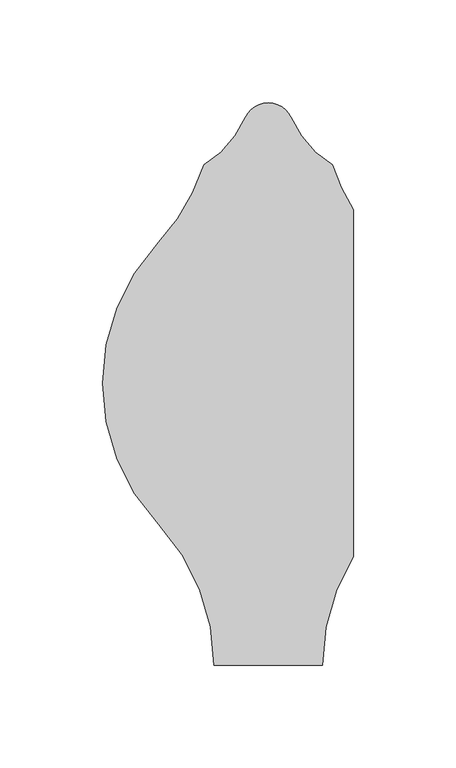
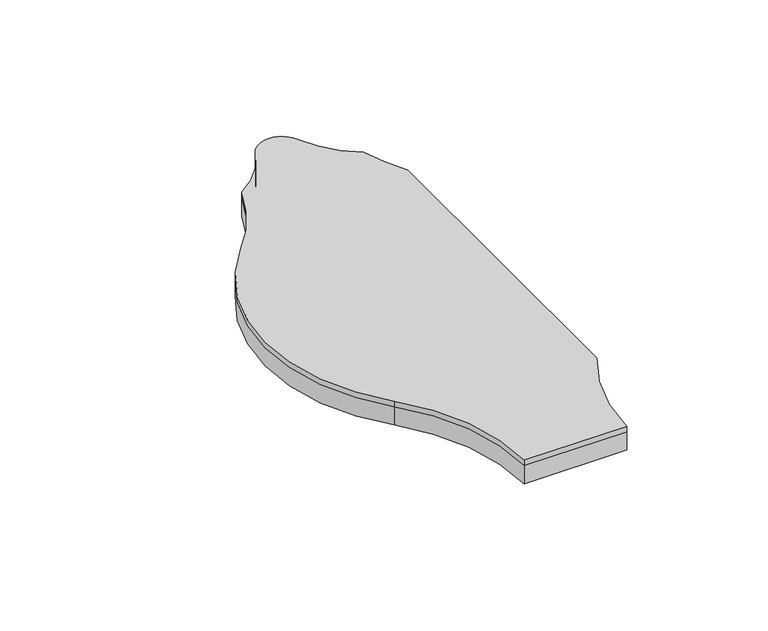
"""IFC4 building model written with IfcOpenShell, lengths in millimetres: proxy geometry, FilzFelt_Fish_Block : Fish Block."""

from ifc_helpers import new_model, si_unit, frame, origin, place, context, project, spatial, polyline, circle_curve, source, transform, mapped, element, save
from ifc_brep_helpers import plane_surface, cylinder_surface, revolved_surface, advanced_brep


def specialty_equipment_7e85a94d(model_context):
    return source(origin(), model_context, "Body", "AdvancedBrep", [
        advanced_brep(
        [(-53.5486457, 68.6120133, 10.0210937), (-31.2619065, 106.3338576, 10.0210937), (-11.0103348, 129.4133496, 10.0210937), (11.0103348, 129.4133496, 10.0210937), (31.2619065, 106.3338576, 10.0210937), (41.4010094, 84.4515082, 10.0210937), (41.4010094, -84.4515082, 10.0210937), (26.3830688, -137.2240266, 10.0210937), (-26.3830688, -137.2240266, 10.0210937), (-53.5486457, -68.6120133, 10.0210937), (-80.7142226, 0.0, 10.0210937), (31.2619065, 106.3338576, 12.9976563), (11.0103348, 129.4133496, 12.9976563), (0.0, 136.5838795, 12.9976563), (-11.0103348, 129.4133496, 12.9976563), (-31.2619065, 106.3338576, 12.9976563), (-53.5486457, 68.6120133, 12.9976563), (-80.7142226, 0.0, 12.9976563), (-53.5486457, -68.6120133, 12.9976563), (-26.3830688, -137.2240266, 12.9976563), (26.3830688, -137.2240266, 12.9976563), (41.4010094, -84.4515082, 12.9976563), (41.4010094, 84.4515082, 12.9976563)],
        [
            (0, 1, circle_curve(frame((-126.6124317, 137.2240266, 10.0210937), z_axis=(0.0, 0.0, 1.0), x_axis=(-1.0, 0.0, 0.0)), 100.2293629)),
            (1, 2, circle_curve(frame((-57.9263497, 150.1559416, 10.0210937), z_axis=(0.0, 0.0, 1.0), x_axis=(-1.0, 0.0, 0.0)), 51.2968574)),
            (2, 3, circle_curve(frame((0.0, 124.5454408, 10.0210937), z_axis=(0.0, 0.0, -1.0), x_axis=(-1.0, 0.0, 0.0)), 12.0384388)),
            (3, 4, circle_curve(frame((57.9263497, 150.1559416, 10.0210937), z_axis=(0.0, 0.0, 1.0), x_axis=(-1.0, 0.0, 0.0)), 51.2968574)),
            (4, 5, circle_curve(frame((126.6124317, 137.2240266, 10.0210937), z_axis=(0.0, 0.0, 1.0), x_axis=(-1.0, 0.0, 0.0)), 100.2293629)),
            (5, 6),
            (6, 7, circle_curve(frame((126.6124317, -137.2240266, 10.0210937), z_axis=(0.0, 0.0, 1.0), x_axis=(-1.0, 0.0, 0.0)), 100.2293629)),
            (7, 8),
            (8, 9, circle_curve(frame((-126.6124317, -137.2240266, 10.0210937), z_axis=(0.0, 0.0, 1.0), x_axis=(-1.0, 0.0, 0.0)), 100.2293629)),
            (9, 10, circle_curve(frame((19.5151403, 0.0, 10.0210937), z_axis=(0.0, 0.0, -1.0), x_axis=(-1.0, 0.0, 0.0)), 100.2293629)),
            (10, 0, circle_curve(frame((19.5151403, 0.0, 10.0210937), z_axis=(0.0, 0.0, -1.0), x_axis=(-1.0, 0.0, 0.0)), 100.2293629)),
            (11, 12, circle_curve(frame((57.9263497, 150.1559416, 12.9976563), z_axis=(0.0, 0.0, -1.0), x_axis=(-1.0, 0.0, 0.0)), 51.2968574)),
            (12, 13, circle_curve(frame((0.0, 124.5454408, 12.9976563), z_axis=(0.0, 0.0, 1.0), x_axis=(-1.0, 0.0, 0.0)), 12.0384388)),
            (13, 14, circle_curve(frame((0.0, 124.5454408, 12.9976563), z_axis=(0.0, 0.0, 1.0), x_axis=(-1.0, 0.0, 0.0)), 12.0384388)),
            (14, 15, circle_curve(frame((-57.9263497, 150.1559416, 12.9976563), z_axis=(0.0, 0.0, -1.0), x_axis=(-1.0, 0.0, 0.0)), 51.2968574)),
            (15, 16, circle_curve(frame((-126.6124317, 137.2240266, 12.9976563), z_axis=(0.0, 0.0, -1.0), x_axis=(-1.0, 0.0, 0.0)), 100.2293629)),
            (16, 17, circle_curve(frame((19.5151403, 0.0, 12.9976563), z_axis=(0.0, 0.0, 1.0), x_axis=(-1.0, 0.0, 0.0)), 100.2293629)),
            (17, 18, circle_curve(frame((19.5151403, 0.0, 12.9976563), z_axis=(0.0, 0.0, 1.0), x_axis=(-1.0, 0.0, 0.0)), 100.2293629)),
            (18, 19, circle_curve(frame((-126.6124317, -137.2240266, 12.9976563), z_axis=(0.0, 0.0, -1.0), x_axis=(-1.0, 0.0, 0.0)), 100.2293629)),
            (19, 20),
            (20, 21, circle_curve(frame((126.6124317, -137.2240266, 12.9976563), z_axis=(0.0, 0.0, -1.0), x_axis=(-1.0, 0.0, 0.0)), 100.2293629)),
            (21, 22),
            (22, 11, circle_curve(frame((126.6124317, 137.2240266, 12.9976563), z_axis=(0.0, 0.0, -1.0), x_axis=(-1.0, 0.0, 0.0)), 100.2293629)),
            (20, 7),
            (6, 21),
            (18, 9),
            (8, 19),
            (16, 0),
            (15, 1),
            (14, 2),
            (12, 3),
            (11, 4),
            (22, 5),
        ],
        [
            plane_surface(frame((0.0, 0.0, 10.0210937), z_axis=(0.0, 0.0, -1.0), x_axis=(0.0, -1.0, 0.0))),
            plane_surface(frame((0.0, 0.0, 12.9976563), z_axis=(0.0, 0.0, 1.0), x_axis=(0.0, -1.0, 0.0))),
            revolved_surface(polyline([(26.383068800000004, -137.2240266, 12.9976563), (26.383068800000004, -137.2240266, 10.0210937)]), (126.6124317, -137.2240266, 10.0210937), (0.0, 0.0, 1.0)),
            revolved_surface(polyline([(-226.84179460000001, -137.2240266, 12.9976563), (-226.84179460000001, -137.2240266, 10.0210937)]), (-126.6124317, -137.2240266, 10.0210937), (0.0, 0.0, 1.0)),
            cylinder_surface(frame((19.5151403, 0.0, 10.0210937), z_axis=(0.0, 0.0, -1.0), x_axis=(-1.0, 0.0, 0.0)), 100.2293629),
            revolved_surface(polyline([(-226.84179460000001, 137.2240266, 12.9976563), (-226.84179460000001, 137.2240266, 10.0210937)]), (-126.6124317, 137.2240266, 10.0210937), (0.0, 0.0, 1.0)),
            revolved_surface(polyline([(-109.2232071, 150.1559416, 12.9976563), (-109.2232071, 150.1559416, 10.0210937)]), (-57.9263497, 150.1559416, 10.0210937), (0.0, 0.0, 1.0)),
            cylinder_surface(frame((0.0, 124.5454408, 10.0210937), z_axis=(0.0, 0.0, -1.0), x_axis=(-1.0, 0.0, 0.0)), 12.0384388),
            revolved_surface(polyline([(6.629492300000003, 150.1559416, 12.9976563), (6.629492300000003, 150.1559416, 10.0210937)]), (57.9263497, 150.1559416, 10.0210937), (0.0, 0.0, 1.0)),
            revolved_surface(polyline([(26.383068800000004, 137.2240266, 12.9976563), (26.383068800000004, 137.2240266, 10.0210937)]), (126.6124317, 137.2240266, 10.0210937), (0.0, 0.0, 1.0)),
            plane_surface(frame((112.4642226, -137.2240266, 12.9976562), z_axis=(0.0, -1.0, 0.0), x_axis=(0.0, 0.0, -1.0))),
            plane_surface(frame((41.4010094, -199.8641956, 12.9976562), z_axis=(1.0, 0.0, 0.0), x_axis=(0.0, 0.0, 1.0))),
        ],
        [
            (0, [[1, 2, 3, 4, 5, 6, 7, 8, 9, 10, 11]]),
            (1, [[12, 13, 14, 15, 16, 17, 18, 19, 20, 21, 22, 23]]),
            (2, [[24, -7, 25, -21]]),
            (3, [[26, -9, 27, -19]]),
            (4, [[-26, -18, -17, 28, -11, -10]]),
            (5, [[-1, -28, -16, 29]]),
            (6, [[-2, -29, -15, 30]]),
            (7, [[-3, -30, -14, -13, 31]]),
            (8, [[-4, -31, -12, 32]]),
            (9, [[-32, -23, 33, -5]]),
            (10, [[-8, -24, -20, -27]]),
            (11, [[-6, -33, -22, -25]]),
        ],
    ),
        advanced_brep(
        [(-53.5486457, 68.6120133, 0.0), (-31.2619065, 106.3338576, 0.0), (-11.0103348, 129.4133496, 0.0), (0.0, 136.5838795, 0.0), (11.0103348, 129.4133496, 0.0), (31.2619065, 106.3338576, 0.0), (41.4010094, 84.4515082, 0.0), (41.4010094, -84.4515082, 0.0), (26.3830688, -137.2240266, 0.0), (-26.3830688, -137.2240266, 0.0), (-53.5486457, -68.6120133, 0.0), (-80.7142226, 0.0, 0.0), (31.2619065, 106.3338576, 10.0210937), (11.0103348, 129.4133496, 10.0210937), (-11.0103348, 129.4133496, 10.0210937), (-31.2619065, 106.3338576, 10.0210937), (-53.5486457, 68.6120133, 10.0210937), (-80.7142226, 0.0, 10.0210937), (-53.5486457, -68.6120133, 10.0210937), (-26.3830688, -137.2240266, 10.0210937), (26.3830688, -137.2240266, 10.0210937), (41.4010094, -84.4515082, 10.0210937), (41.4010094, 84.4515082, 10.0210937)],
        [
            (0, 1, circle_curve(frame((-126.6124317, 137.2240266, 0.0), z_axis=(0.0, 0.0, 1.0), x_axis=(-1.0, 0.0, 0.0)), 100.2293629)),
            (1, 2, circle_curve(frame((-57.9263497, 150.1559416, 0.0), z_axis=(0.0, 0.0, 1.0), x_axis=(-1.0, 0.0, 0.0)), 51.2968574)),
            (2, 3, circle_curve(frame((0.0, 124.5454408, 0.0), z_axis=(0.0, 0.0, -1.0), x_axis=(-1.0, 0.0, 0.0)), 12.0384388)),
            (3, 4, circle_curve(frame((0.0, 124.5454408, 0.0), z_axis=(0.0, 0.0, -1.0), x_axis=(-1.0, 0.0, 0.0)), 12.0384388)),
            (4, 5, circle_curve(frame((57.9263497, 150.1559416, 0.0), z_axis=(0.0, 0.0, 1.0), x_axis=(-1.0, 0.0, 0.0)), 51.2968574)),
            (5, 6, circle_curve(frame((126.6124317, 137.2240266, 0.0), z_axis=(0.0, 0.0, 1.0), x_axis=(-1.0, 0.0, 0.0)), 100.2293629)),
            (6, 7),
            (7, 8, circle_curve(frame((126.6124317, -137.2240266, 0.0), z_axis=(0.0, 0.0, 1.0), x_axis=(-1.0, 0.0, 0.0)), 100.2293629)),
            (8, 9),
            (9, 10, circle_curve(frame((-126.6124317, -137.2240266, 0.0), z_axis=(0.0, 0.0, 1.0), x_axis=(-1.0, 0.0, 0.0)), 100.2293629)),
            (10, 11, circle_curve(frame((19.5151403, 0.0, 0.0), z_axis=(0.0, 0.0, -1.0), x_axis=(-1.0, 0.0, 0.0)), 100.2293629)),
            (11, 0, circle_curve(frame((19.5151403, 0.0, 0.0), z_axis=(0.0, 0.0, -1.0), x_axis=(-1.0, 0.0, 0.0)), 100.2293629)),
            (12, 13, circle_curve(frame((57.9263497, 150.1559416, 10.0210937), z_axis=(0.0, 0.0, -1.0), x_axis=(-1.0, 0.0, 0.0)), 51.2968574)),
            (13, 14, circle_curve(frame((0.0, 124.5454408, 10.0210937), z_axis=(0.0, 0.0, 1.0), x_axis=(-1.0, 0.0, 0.0)), 12.0384388)),
            (14, 15, circle_curve(frame((-57.9263497, 150.1559416, 10.0210937), z_axis=(0.0, 0.0, -1.0), x_axis=(-1.0, 0.0, 0.0)), 51.2968574)),
            (15, 16, circle_curve(frame((-126.6124317, 137.2240266, 10.0210937), z_axis=(0.0, 0.0, -1.0), x_axis=(-1.0, 0.0, 0.0)), 100.2293629)),
            (16, 17, circle_curve(frame((19.5151403, 0.0, 10.0210937), z_axis=(0.0, 0.0, 1.0), x_axis=(-1.0, 0.0, 0.0)), 100.2293629)),
            (17, 18, circle_curve(frame((19.5151403, 0.0, 10.0210937), z_axis=(0.0, 0.0, 1.0), x_axis=(-1.0, 0.0, 0.0)), 100.2293629)),
            (18, 19, circle_curve(frame((-126.6124317, -137.2240266, 10.0210937), z_axis=(0.0, 0.0, -1.0), x_axis=(-1.0, 0.0, 0.0)), 100.2293629)),
            (19, 20),
            (20, 21, circle_curve(frame((126.6124317, -137.2240266, 10.0210937), z_axis=(0.0, 0.0, -1.0), x_axis=(-1.0, 0.0, 0.0)), 100.2293629)),
            (21, 22),
            (22, 12, circle_curve(frame((126.6124317, 137.2240266, 10.0210937), z_axis=(0.0, 0.0, -1.0), x_axis=(-1.0, 0.0, 0.0)), 100.2293629)),
            (18, 10),
            (9, 19),
            (16, 0),
            (15, 1),
            (14, 2),
            (13, 4),
            (12, 5),
            (22, 6),
            (20, 8),
            (7, 21),
        ],
        [
            plane_surface(frame((0.0, 0.0, 0.0), z_axis=(0.0, 0.0, -1.0), x_axis=(0.0, -1.0, 0.0))),
            plane_surface(frame((0.0, 0.0, 10.0210937), z_axis=(0.0, 0.0, 1.0), x_axis=(0.0, -1.0, 0.0))),
            revolved_surface(polyline([(-226.84179460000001, -137.2240266, 10.0210937), (-226.84179460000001, -137.2240266, 0.0)]), (-126.6124317, -137.2240266, 0.0), (0.0, 0.0, 1.0)),
            cylinder_surface(frame((19.5151403, 0.0, 0.0), z_axis=(0.0, 0.0, -1.0), x_axis=(-1.0, 0.0, 0.0)), 100.2293629),
            revolved_surface(polyline([(-226.84179460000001, 137.2240266, 10.0210937), (-226.84179460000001, 137.2240266, 0.0)]), (-126.6124317, 137.2240266, 0.0), (0.0, 0.0, 1.0)),
            revolved_surface(polyline([(-109.2232071, 150.1559416, 10.0210937), (-109.2232071, 150.1559416, 0.0)]), (-57.9263497, 150.1559416, 0.0), (0.0, 0.0, 1.0)),
            cylinder_surface(frame((0.0, 124.5454408, 0.0), z_axis=(0.0, 0.0, -1.0), x_axis=(-1.0, 0.0, 0.0)), 12.0384388),
            revolved_surface(polyline([(6.629492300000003, 150.1559416, 10.0210937), (6.629492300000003, 150.1559416, 0.0)]), (57.9263497, 150.1559416, 0.0), (0.0, 0.0, 1.0)),
            revolved_surface(polyline([(26.383068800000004, 137.2240266, 10.0210937), (26.383068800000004, 137.2240266, 0.0)]), (126.6124317, 137.2240266, 0.0), (0.0, 0.0, 1.0)),
            revolved_surface(polyline([(26.383068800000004, -137.2240266, 10.0210937), (26.383068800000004, -137.2240266, 0.0)]), (126.6124317, -137.2240266, 0.0), (0.0, 0.0, 1.0)),
            plane_surface(frame((112.4642226, -137.2240266, 12.9976562), z_axis=(0.0, -1.0, 0.0), x_axis=(0.0, 0.0, -1.0))),
            plane_surface(frame((41.4010094, -199.8641956, 12.9976562), z_axis=(1.0, 0.0, 0.0), x_axis=(0.0, 0.0, 1.0))),
        ],
        [
            (0, [[1, 2, 3, 4, 5, 6, 7, 8, 9, 10, 11, 12]]),
            (1, [[13, 14, 15, 16, 17, 18, 19, 20, 21, 22, 23]]),
            (2, [[24, -10, 25, -19]]),
            (3, [[-24, -18, -17, 26, -12, -11]]),
            (4, [[-1, -26, -16, 27]]),
            (5, [[-2, -27, -15, 28]]),
            (6, [[-14, 29, -4, -3, -28]]),
            (7, [[-5, -29, -13, 30]]),
            (8, [[-30, -23, 31, -6]]),
            (9, [[32, -8, 33, -21]]),
            (10, [[-9, -32, -20, -25]]),
            (11, [[-7, -31, -22, -33]]),
        ],
    ),
    ])


if __name__ == "__main__":
    model = new_model("IFC4")
    model_context = context("Model", 3, world=origin())
    ifc_project = project(units=[si_unit("LENGTHUNIT", "METRE", prefix="MILLI")], contexts=[model_context])
    site = spatial("IfcSite", under=ifc_project)
    building = spatial("IfcBuilding", under=site)
    placement = place(None, origin())
    specialty_equipment_shape = specialty_equipment_7e85a94d(model_context)
    element("IfcBuildingElementProxy", 1, Name="FilzFelt_Fish_Block : Fish Block", ObjectType="FilzFelt_Fish_Block : Fish Block", at=placement, inside=building, context=model_context, shape_type="MappedRepresentation", body=[
        mapped(specialty_equipment_shape, transform((0.0, 0.0, 0.0), x_axis=(1.0, 0.0, 0.0), y_axis=(0.0, 1.0, 0.0), z_axis=(0.0, 0.0, 1.0))),
    ])
    save(model, "model.ifc")
